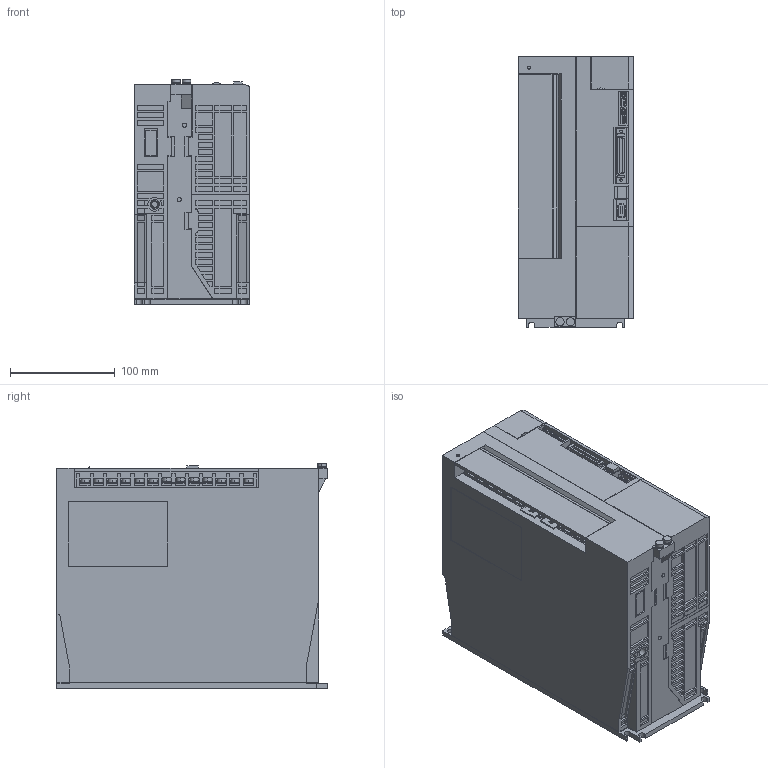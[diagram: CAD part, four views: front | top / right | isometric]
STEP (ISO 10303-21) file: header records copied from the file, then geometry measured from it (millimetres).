
FILE_DESCRIPTION (( 'STEP AP203' ), '1' );
FILE_NAME ('sgd7s_330a00a.STEP', '2015-09-18T08:28:03', ( '匠エンジニアリング山之内' ), ( 'TAKUMI-Engniaring' ), 'SwSTEP 2.0', 'SolidWorks 2006303', '' );
FILE_SCHEMA (( 'CONFIG_CONTROL_DESIGN' ));
Length unit declared in the file: millimetre
Products named in the file (7): sgd7s_330a00a_connector; sgd7s_330a00a; sgd7s_330a00a_base; sgd7s_330a00a_cover; sgd7s_330a00a_cover2; sgd7s_330a00a_cover3; sgd7s_330a00a_terminal
Assembly tree (8 placements, depth 2):
  sgd7s_330a00a
    sgd7s_330a00a_connector
    sgd7s_330a00a_terminal  x2
    sgd7s_330a00a_cover
    sgd7s_330a00a_cover2  x2
    sgd7s_330a00a_base
    sgd7s_330a00a_cover3
Bounding box: 110.5 x 258 x 214.6 mm (x, y, z)
Volume: 5480898.7 mm3; surface area: 293192.4 mm2
Topology: 8 solids, 8 shells, 2110 faces, 5390 edges, 3566 vertices
Faces by surface type: plane 1731, cylinder 374, cone 4, sphere 1
Entity records: 62611 total; most frequent: CARTESIAN_POINT 10844, ORIENTED_EDGE 10552, DIRECTION 10196, EDGE_CURVE 5276, VECTOR 4512, LINE 4512, VERTEX_POINT 3490, AXIS2_PLACEMENT_3D 2842
